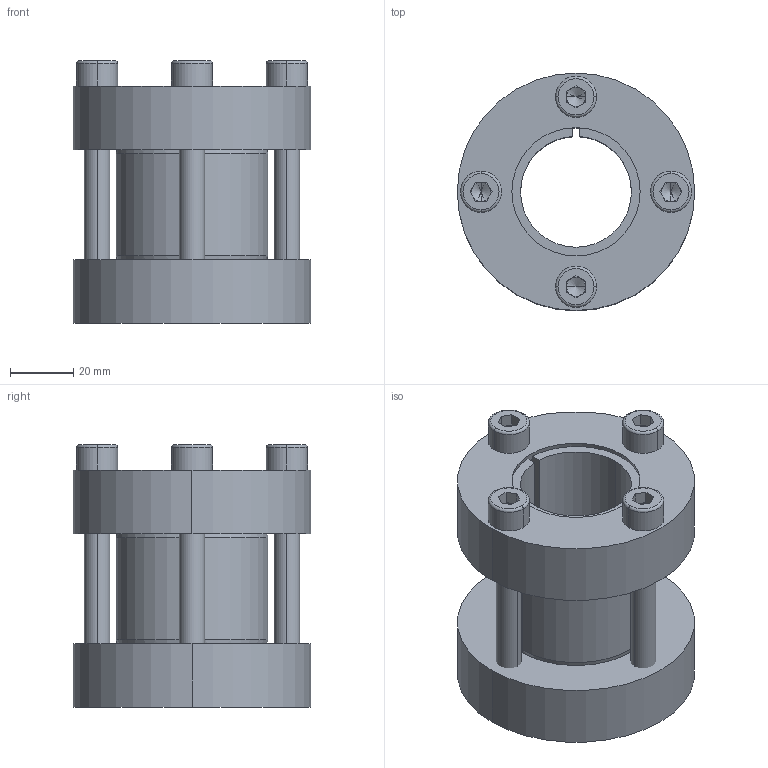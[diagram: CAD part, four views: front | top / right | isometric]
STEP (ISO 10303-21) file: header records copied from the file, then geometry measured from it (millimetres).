
FILE_DESCRIPTION (( 'STEP AP214' ), '1' );
FILE_NAME ('CONEX-M-35x75.step', '2013-04-06T13:25:25', ( 'Pc' ), ( '' ), 'SwSTEP 2.0', 'SolidWorks 2013', '' );
FILE_SCHEMA (( 'AUTOMOTIVE_DESIGN' ));
Length unit declared in the file: millimetre
Products named in the file (1): CONEX-M-35x75
Bounding box: 75 x 75 x 82.85 mm (x, y, z)
Volume: 175752.7 mm3; surface area: 59017 mm2
Topology: 7 solids, 7 shells, 152 faces, 342 edges, 204 vertices
Faces by surface type: plane 68, cylinder 42, cone 26, torus 16
Entity records: 5991 total; most frequent: DIRECTION 798, CARTESIAN_POINT 718, ORIENTED_EDGE 668, EDGE_CURVE 334, AXIS2_PLACEMENT_3D 315, VERTEX_POINT 204, EDGE_LOOP 180, VECTOR 168
